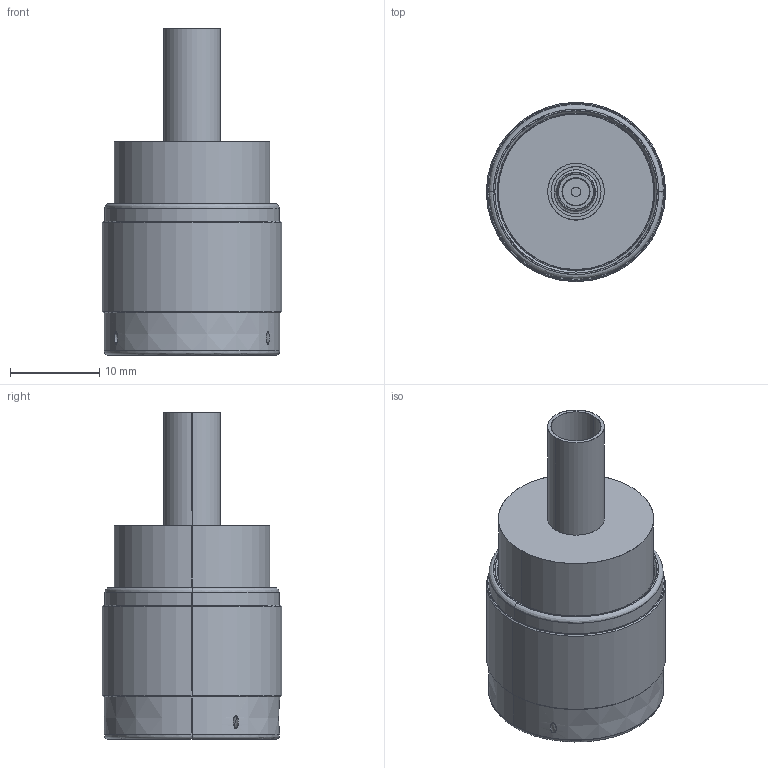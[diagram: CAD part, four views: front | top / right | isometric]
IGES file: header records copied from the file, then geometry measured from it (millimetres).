
Start section: SolidWorks IGES file using analytic representation for surfaces
Global section: file name: C:\Users\sculpepper\Desktop\mouser\1103018A00E-000\1103018A00E-000igs.IGS; native system: SolidWorks 2019; preprocessor: SolidWorks 2019; author: sculpepper; date: 210308.111524; units: inch
Bounding box: 20.12 x 20.12 x 36.68 mm (x, y, z)
Surface area: 4393.8 mm2 (no closed solid volume)
Topology: 0 solids, 0 shells, 157 faces, 2678 edges, 2678 vertices
Faces by surface type: revolution 95, bspline 62
